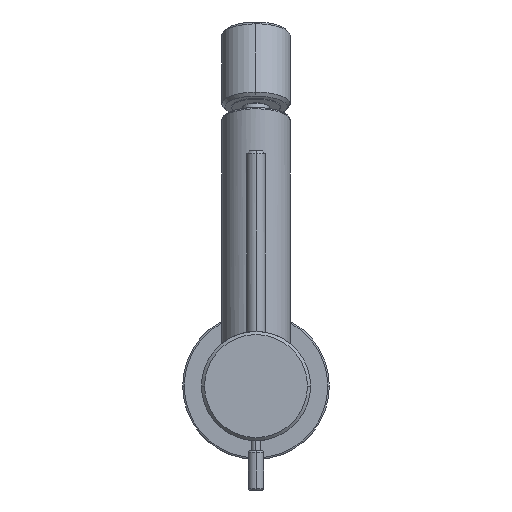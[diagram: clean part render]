
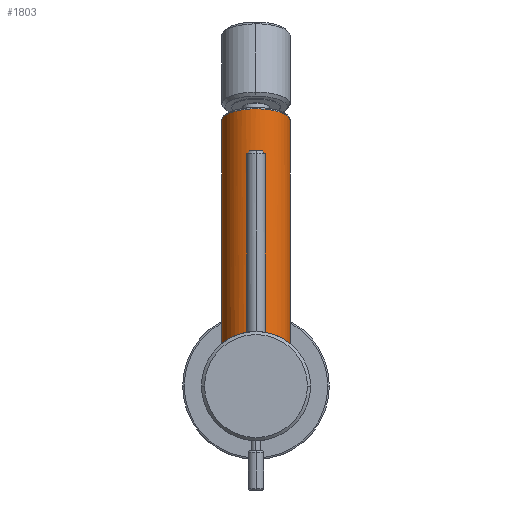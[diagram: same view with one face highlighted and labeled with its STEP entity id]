
A CAD part, front view. The second image highlights one B-rep face of the part: STEP entity #1803.
In plain terms, the highlighted cylindrical face has radius 11 mm (diameter 22 mm), a partial arc.
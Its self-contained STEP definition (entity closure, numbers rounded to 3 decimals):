
#188=CARTESIAN_POINT('',(11.,40.3,13.611));
#232=CARTESIAN_POINT('',(-11.,40.3,13.611));
#234=CARTESIAN_POINT('',(-11.,40.3,13.611));
#235=CARTESIAN_POINT('',(-11.,40.058,13.611));
#236=CARTESIAN_POINT('',(-10.984,39.57,13.624));
#237=CARTESIAN_POINT('',(-10.91,38.83,13.683));
#238=CARTESIAN_POINT('',(-10.784,38.086,13.783));
#239=CARTESIAN_POINT('',(-10.602,37.335,13.923));
#240=CARTESIAN_POINT('',(-10.361,36.577,14.104));
#241=CARTESIAN_POINT('',(-10.054,35.812,14.325));
#242=CARTESIAN_POINT('',(-9.678,35.047,14.583));
#243=CARTESIAN_POINT('',(-9.231,34.296,14.871));
#244=CARTESIAN_POINT('',(-8.714,33.567,15.18));
#245=CARTESIAN_POINT('',(-8.134,32.876,15.5));
#246=CARTESIAN_POINT('',(-7.499,32.235,15.818));
#247=CARTESIAN_POINT('',(-6.824,31.657,16.121));
#248=CARTESIAN_POINT('',(-6.115,31.143,16.403));
#249=CARTESIAN_POINT('',(-5.384,30.695,16.657));
#250=CARTESIAN_POINT('',(-4.635,30.312,16.881));
#251=CARTESIAN_POINT('',(-3.873,29.994,17.072));
#252=CARTESIAN_POINT('',(-3.104,29.737,17.228));
#253=CARTESIAN_POINT('',(-2.33,29.54,17.35));
#254=CARTESIAN_POINT('',(-1.558,29.401,17.436));
#255=CARTESIAN_POINT('',(-0.779,29.318,17.488));
#256=CARTESIAN_POINT('',(0.,29.291,17.506));
#257=CARTESIAN_POINT('',(0.778,29.318,17.489));
#258=CARTESIAN_POINT('',(1.556,29.401,17.436));
#259=CARTESIAN_POINT('',(2.33,29.54,17.35));
#260=CARTESIAN_POINT('',(3.105,29.737,17.228));
#261=CARTESIAN_POINT('',(3.874,29.994,17.072));
#262=CARTESIAN_POINT('',(4.634,30.312,16.881));
#263=CARTESIAN_POINT('',(5.384,30.695,16.657));
#264=CARTESIAN_POINT('',(6.117,31.144,16.402));
#265=CARTESIAN_POINT('',(6.826,31.659,16.12));
#266=CARTESIAN_POINT('',(7.501,32.238,15.816));
#267=CARTESIAN_POINT('',(8.135,32.878,15.499));
#268=CARTESIAN_POINT('',(8.715,33.568,15.18));
#269=CARTESIAN_POINT('',(9.233,34.299,14.87));
#270=CARTESIAN_POINT('',(9.679,35.05,14.582));
#271=CARTESIAN_POINT('',(10.055,35.813,14.325));
#272=CARTESIAN_POINT('',(10.361,36.576,14.104));
#273=CARTESIAN_POINT('',(10.602,37.334,13.923));
#274=CARTESIAN_POINT('',(10.784,38.087,13.783));
#275=CARTESIAN_POINT('',(10.91,38.83,13.683));
#276=CARTESIAN_POINT('',(10.984,39.57,13.624));
#277=CARTESIAN_POINT('',(11.,40.058,13.611));
#278=CARTESIAN_POINT('',(11.,40.3,13.611));
#545=DIRECTION('',(0.,0.,1.));
#546=VECTOR('',#545,71.407);
#547=CARTESIAN_POINT('',(-11.,40.3,13.611));
#548=LINE('',#547,#546);
#549=DIRECTION('',(0.,0.,-1.));
#550=VECTOR('',#549,71.407);
#551=CARTESIAN_POINT('',(11.,40.3,85.017));
#552=LINE('',#551,#550);
#553=CARTESIAN_POINT('',(11.,40.3,85.017));
#554=CARTESIAN_POINT('',(11.,40.001,85.122));
#555=CARTESIAN_POINT('',(10.976,39.405,85.33));
#556=CARTESIAN_POINT('',(10.867,38.516,85.64));
#557=CARTESIAN_POINT('',(10.686,37.641,85.946));
#558=CARTESIAN_POINT('',(10.436,36.785,86.244));
#559=CARTESIAN_POINT('',(10.118,35.955,86.534));
#560=CARTESIAN_POINT('',(9.737,35.157,86.813));
#561=CARTESIAN_POINT('',(9.294,34.395,87.079));
#562=CARTESIAN_POINT('',(8.795,33.675,87.33));
#563=CARTESIAN_POINT('',(8.244,33.,87.566));
#564=CARTESIAN_POINT('',(7.644,32.374,87.784));
#565=CARTESIAN_POINT('',(7.001,31.801,87.984));
#566=CARTESIAN_POINT('',(6.318,31.282,88.165));
#567=CARTESIAN_POINT('',(5.602,30.82,88.327));
#568=CARTESIAN_POINT('',(4.855,30.418,88.467));
#569=CARTESIAN_POINT('',(4.084,30.075,88.587));
#570=CARTESIAN_POINT('',(3.292,29.793,88.685));
#571=CARTESIAN_POINT('',(2.483,29.573,88.762));
#572=CARTESIAN_POINT('',(1.662,29.416,88.817));
#573=CARTESIAN_POINT('',(0.833,29.321,88.85));
#574=CARTESIAN_POINT('',(0.,29.289,88.861));
#575=CARTESIAN_POINT('',(-0.833,29.321,88.85));
#576=CARTESIAN_POINT('',(-1.662,29.416,88.817));
#577=CARTESIAN_POINT('',(-2.483,29.573,88.762));
#578=CARTESIAN_POINT('',(-3.292,29.793,88.685));
#579=CARTESIAN_POINT('',(-4.084,30.075,88.587));
#580=CARTESIAN_POINT('',(-4.856,30.418,88.467));
#581=CARTESIAN_POINT('',(-5.602,30.821,88.327));
#582=CARTESIAN_POINT('',(-6.318,31.282,88.165));
#583=CARTESIAN_POINT('',(-7.001,31.801,87.984));
#584=CARTESIAN_POINT('',(-7.644,32.374,87.784));
#585=CARTESIAN_POINT('',(-8.244,33.,87.566));
#586=CARTESIAN_POINT('',(-8.795,33.675,87.33));
#587=CARTESIAN_POINT('',(-9.295,34.395,87.079));
#588=CARTESIAN_POINT('',(-9.737,35.157,86.813));
#589=CARTESIAN_POINT('',(-10.119,35.955,86.534));
#590=CARTESIAN_POINT('',(-10.436,36.785,86.244));
#591=CARTESIAN_POINT('',(-10.686,37.641,85.946));
#592=CARTESIAN_POINT('',(-10.867,38.516,85.64));
#593=CARTESIAN_POINT('',(-10.976,39.405,85.33));
#594=CARTESIAN_POINT('',(-11.,40.001,85.122));
#595=CARTESIAN_POINT('',(-11.,40.3,85.017));
#605=CARTESIAN_POINT('',(-11.,40.3,85.017));
#647=CARTESIAN_POINT('',(11.,40.3,85.017));
#1191=VERTEX_POINT('',#188);
#1192=VERTEX_POINT('',#232);
#1193=VERTEX_POINT('',#605);
#1194=VERTEX_POINT('',#647);
#1791=CARTESIAN_POINT('',(0.,40.3,0.));
#1792=DIRECTION('',(0.,0.,1.));
#1793=DIRECTION('',(1.,0.,0.));
#1794=AXIS2_PLACEMENT_3D('',#1791,#1792,#1793);
#1795=CYLINDRICAL_SURFACE('',#1794,11.);
#1796=ORIENTED_EDGE('',*,*,#1785,.T.);
#1798=ORIENTED_EDGE('',*,*,#1797,.F.);
#1799=ORIENTED_EDGE('',*,*,#1781,.T.);
#1800=ORIENTED_EDGE('',*,*,#1529,.F.);
#1801=EDGE_LOOP('',(#1796,#1798,#1799,#1800));
#1802=FACE_OUTER_BOUND('',#1801,.F.);
#1803=ADVANCED_FACE('',(#1802),#1795,.T.);
#279=B_SPLINE_CURVE_WITH_KNOTS('',3,(#234,#235,#236,#237,#238,#239,#240,#241,
#242,#243,#244,#245,#246,#247,#248,#249,#250,#251,#252,#253,#254,#255,#256,#257,
#258,#259,#260,#261,#262,#263,#264,#265,#266,#267,#268,#269,#270,#271,#272,#273,
#274,#275,#276,#277,#278),.UNSPECIFIED.,.F.,.F.,(4,1,1,1,1,1,1,1,1,1,1,1,1,1,1,
1,1,1,1,1,1,1,1,1,1,1,1,1,1,1,1,1,1,1,1,1,1,1,1,1,1,1,4),(0.,
0.024,0.048,0.071,0.095,
0.119,0.143,0.167,0.19,
0.214,0.238,0.262,0.286,
0.31,0.333,0.357,0.381,
0.405,0.429,0.452,0.476,0.5,
0.524,0.548,0.571,0.595,
0.619,0.643,0.667,0.69,
0.714,0.738,0.762,0.786,
0.81,0.833,0.857,0.881,
0.905,0.929,0.952,0.976,1.),
.UNSPECIFIED.);
#596=B_SPLINE_CURVE_WITH_KNOTS('',3,(#553,#554,#555,#556,#557,#558,#559,#560,
#561,#562,#563,#564,#565,#566,#567,#568,#569,#570,#571,#572,#573,#574,#575,#576,
#577,#578,#579,#580,#581,#582,#583,#584,#585,#586,#587,#588,#589,#590,#591,#592,
#593,#594,#595),.UNSPECIFIED.,.F.,.F.,(4,1,1,1,1,1,1,1,1,1,1,1,1,1,1,1,1,1,1,1,
1,1,1,1,1,1,1,1,1,1,1,1,1,1,1,1,1,1,1,1,4),(0.,0.025,0.05,0.075,0.1,
0.125,0.15,0.175,0.2,0.225,0.25,0.275,0.3,0.325,0.35,
0.375,0.4,0.425,0.45,0.475,0.5,0.525,0.55,0.575,0.6,0.625,
0.65,0.675,0.7,0.725,0.75,0.775,0.8,0.825,0.85,0.875,0.9,
0.925,0.95,0.975,1.),.UNSPECIFIED.);
#1529=EDGE_CURVE('',#1192,#1191,#279,.T.);
#1781=EDGE_CURVE('',#1194,#1191,#552,.T.);
#1785=EDGE_CURVE('',#1192,#1193,#548,.T.);
#1797=EDGE_CURVE('',#1194,#1193,#596,.T.);
